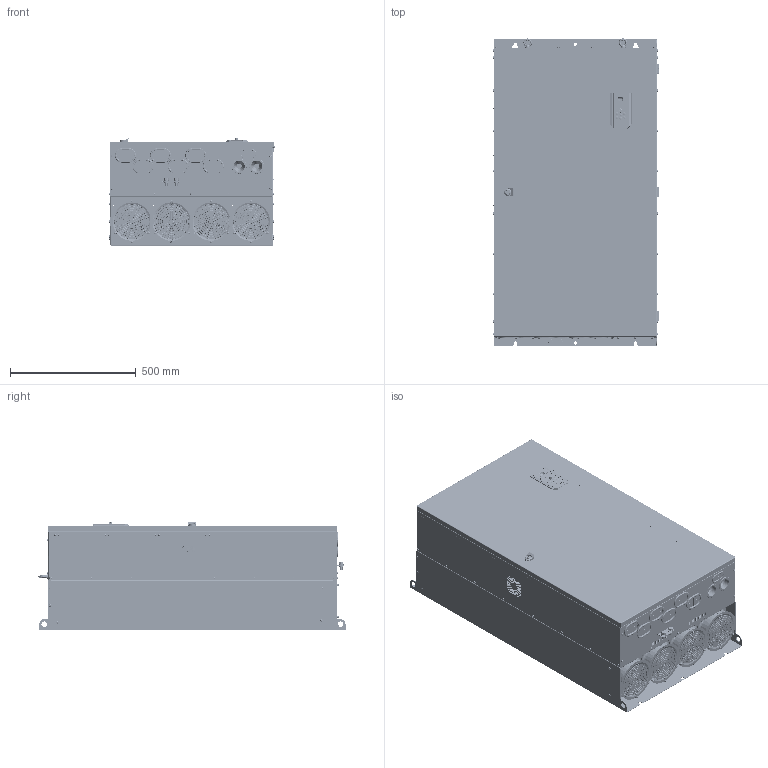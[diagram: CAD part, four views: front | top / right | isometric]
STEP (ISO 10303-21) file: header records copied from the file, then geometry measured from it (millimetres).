
FILE_DESCRIPTION((''),'2;1');
FILE_NAME('AD800P-D9-DRIVE_ASM','2025-06-25T14:35:23',('wendong.luo'),(''),'CREO PARAMETRIC BY PTC INC, 2024374','CREO PARAMETRIC BY PTC INC, 2024374','');
FILE_SCHEMA(('CONFIG_CONTROL_DESIGN','GEOMETRIC_VALIDATION_PROPERTIES_MIM'));
Products named in the file (80): D9-MECHANICAL-PART; PRT0001_7; 17251-5YE-2B_1; 17251_ASM_ASM; M0200005; M0202040; M0202034; M0202055; M0202054; M12-25; M0202068; M0202067; M0202037_ASM; M10-25; M10-SPRING_FLAT; M10-WASHER; M0202036_ASM; M0202007; M0100015; M0202003; M0202014; P_FHS_5_12_; RIVETING-NUT-4_; M0204033; M0202002; M3-SPRING_FLAT; M3-WASHER; M0202002_ASM; P_FHS_8_15; P_FHS_5_10; FASTEN_D9_ASM; M0104030; M0204023; M0204014; D9-PU_ASM; M0104151; E0100736; E0400142; E0400150; E0400073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
Assembly tree (306 placements, depth 5):
  AD800P-D9-DRIVE_ASM
    D9-PU_ASM
      D9-MECHANICAL-PART
      17251_ASM_ASM  x4
        PRT0001_7
        17251-5YE-2B_1
      M0200005  x4
      FASTEN_D9_ASM
        M0202040  x16
        M0202034  x39
        M0202055  x2
        M0202054  x2
        M0202037_ASM  x14
          M12-25
          M0202068
          M0202067
        M0202036_ASM  x2
          M10-25
          M10-SPRING_FLAT
          M10-WASHER
        M0202007  x60
        M0100015  x2
        M0202003  x8
        M0202014
        P_FHS_5_12_  x12
        RIVETING-NUT-4_  x14
        M0204033
        M0202002_ASM  x2
          M0202002
          M3-SPRING_FLAT
          M3-WASHER
        P_FHS_8_15  x4
        P_FHS_5_10  x26
      M0104030
      M0204023  x6
      M0204014  x3
    CU0P-ASSY_ASM
      M0104151
      E0100738_ASM
        E0100736
        E0400142
        E0400150
        E0400073  x2
        E0400023
      E0200416
      M0104143
      E0100737_ASM
        E0100735
        E0400035
        E0400118
        E0400023
        E0400011
      M0203158
      M0203159
    D9-DOOR-ASM_ASM
      M0100106_ASM
        M0100106
        M0100059-D9
        LOCATING-PIN-4_  x2
        EM-S-M5-ZC  x6
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Bounding box: 662.2 x 1222.9 x 434 mm (x, y, z)
Volume: 10426370.3 mm3; surface area: 10766225.2 mm2
Topology: 553 solids, 703 shells, 44029 faces, 114604 edges, 73041 vertices
Faces by surface type: plane 20069, cylinder 12382, bspline 5899, cone 2031, torus 1770, extrusion 1607, sphere 271
Entity records: 793043 total; most frequent: CARTESIAN_POINT 199050, ORIENTED_EDGE 98294, DIRECTION 88350, EDGE_CURVE 49354, PRESENTATION_STYLE_ASSIGNMENT 34598, STYLED_ITEM 33013, VERTEX_POINT 32057, VECTOR 32020
